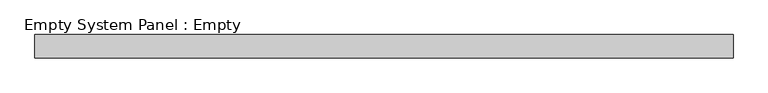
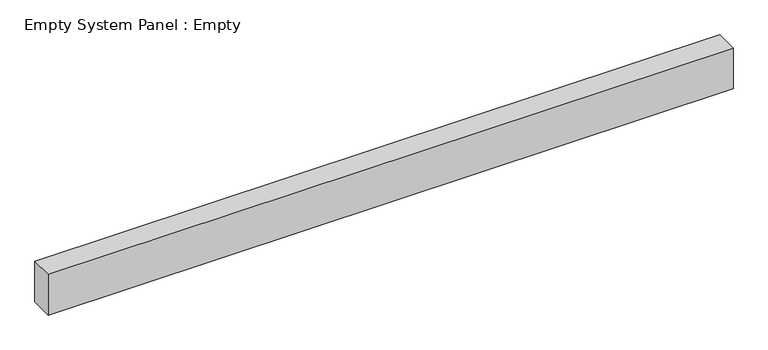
"""IFC4 building model written with IfcOpenShell, lengths in millimetres: plate geometry, Empty System Panel : Empty."""

from ifc_helpers import new_model, si_unit, origin, origin_with_axes, place, context, project, spatial, polyline, outline, extrude, source, transform, mapped, element, save


def empty_system_panel_empty_164fccf4(model_context):
    return source(origin(), model_context, "Body", "SweptSolid", [
        extrude(outline(polyline([(1500.0, -50.0), (-1500.0, -50.0), (-1500.0, 50.0), (1500.0, 50.0), (1500.0, -50.0)])), origin_with_axes(), (0.0, 0.0, 1.0), 188.48171),
    ])


if __name__ == "__main__":
    model = new_model("IFC4")
    model_context = context("Model", 3, world=origin())
    ifc_project = project(units=[si_unit("LENGTHUNIT", "METRE", prefix="MILLI")], contexts=[model_context])
    site = spatial("IfcSite", under=ifc_project)
    building = spatial("IfcBuilding", under=site)
    placement = place(None, origin())
    empty_system_panel_empty_shape = empty_system_panel_empty_164fccf4(model_context)
    element("IfcPlate", 1, ObjectType="Empty System Panel : Empty", at=placement, inside=building, context=model_context, shape_type="MappedRepresentation", body=[
        mapped(empty_system_panel_empty_shape, transform((0.0, 0.0, 0.0), x_axis=(1.0, 0.0, 0.0), y_axis=(0.0, 1.0, 0.0), z_axis=(0.0, 0.0, 1.0))),
    ])
    save(model, "model.ifc")
